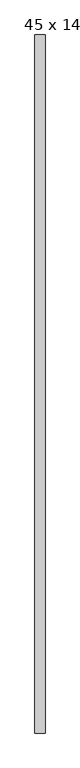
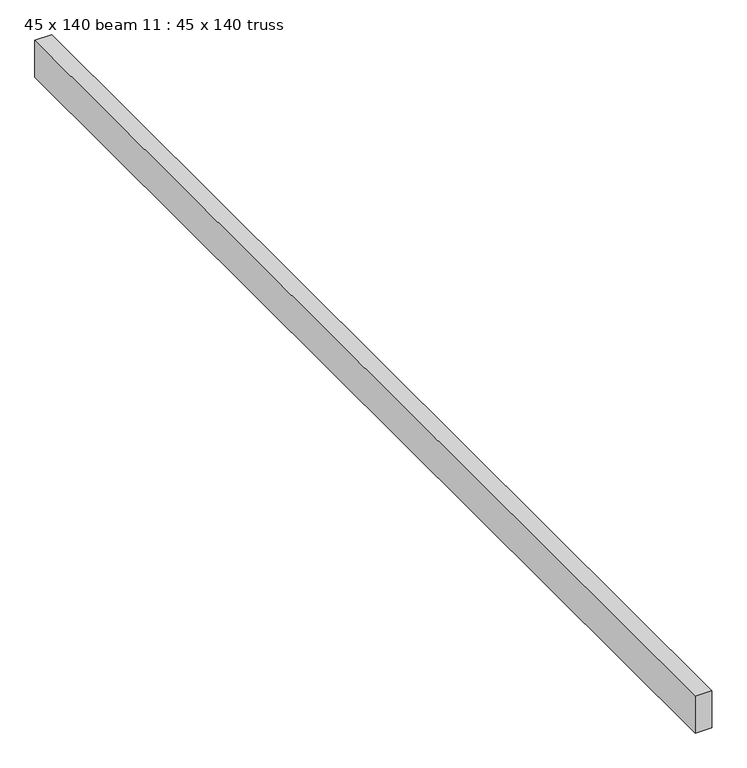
"""IFC4 building model written with IfcOpenShell, lengths in millimetres: proxy geometry, 45 x 140 beam 11 : 45 x 140 truss."""

from ifc_helpers import new_model, si_unit, frame, origin, place, context, project, spatial, polyline, outline, extrude, source, transform, mapped, element, save


def proxy_45_x_140_beam_11_45_x_140_truss_cd76295c(model_context):
    return source(origin(), model_context, "Body", "SweptSolid", [
        extrude(outline(polyline([(40144.687938, -15336.9640915), (40099.687938, -15336.9640915), (40099.687938, -12246.9640915), (40144.687938, -12246.9640915), (40144.687938, -15336.9640915)])), frame((0.0, 0.0, 3679.1177703), z_axis=(0.0, 0.0, 1.0), x_axis=(1.0, 0.0, 0.0)), (0.0, 0.0, 1.0), 105.1275103),
    ])


if __name__ == "__main__":
    model = new_model("IFC4")
    model_context = context("Model", 3, world=origin())
    ifc_project = project(units=[si_unit("LENGTHUNIT", "METRE", prefix="MILLI")], contexts=[model_context])
    site = spatial("IfcSite", under=ifc_project)
    building = spatial("IfcBuilding", under=site)
    placement = place(None, origin())
    proxy_45_x_140_beam_11_45_x_140_truss_shape = proxy_45_x_140_beam_11_45_x_140_truss_cd76295c(model_context)
    element("IfcBuildingElementProxy", 1, Name="45 x 140 beam 11 : 45 x 140 truss", ObjectType="45 x 140 beam 11 : 45 x 140 truss", at=placement, inside=building, context=model_context, shape_type="MappedRepresentation", body=[
        mapped(proxy_45_x_140_beam_11_45_x_140_truss_shape, transform((0.0, 0.0, 0.0), x_axis=(1.0, 0.0, 0.0), y_axis=(0.0, 1.0, 0.0), z_axis=(0.0, 0.0, 1.0))),
    ])
    save(model, "model.ifc")
